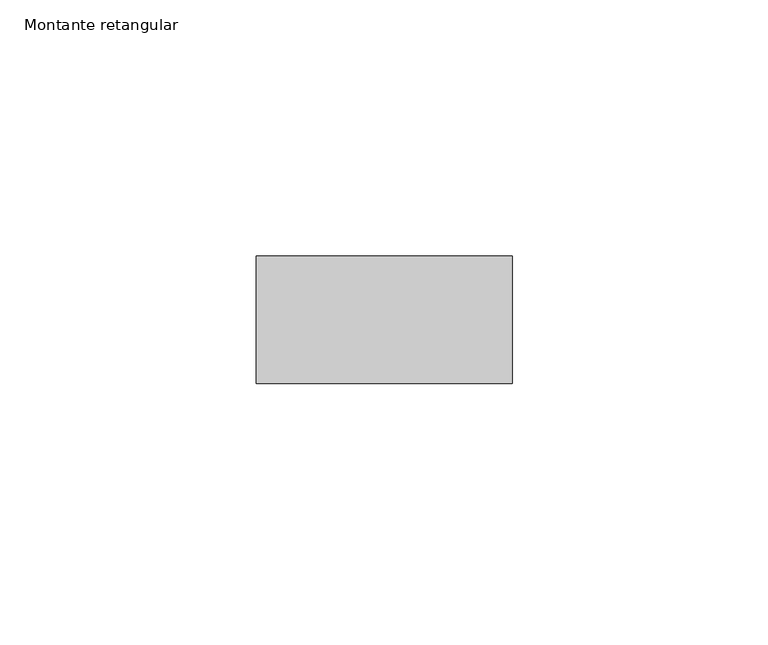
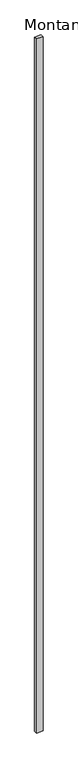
"""IFC4 building model written with IfcOpenShell, lengths in millimetres: member geometry, Montante retangular : ripa."""

from ifc_helpers import new_model, si_unit, frame, origin, place, context, project, spatial, polyline, outline, extrude, source, transform, mapped, element, save


def montante_retangular_ed2668eb(model_context):
    return source(origin(), model_context, "Body", "SweptSolid", [
        extrude(outline(polyline([(50.0, 12.5), (50.0, -12.5), (0.0, -12.5), (0.0, 12.5), (50.0, 12.5)])), frame((0.0, 0.0, -5607.4999998), z_axis=(0.0, 0.0, 1.0), x_axis=(1.0, 0.0, 0.0)), (0.0, 0.0, 1.0), 5607.4999998),
    ])


if __name__ == "__main__":
    model = new_model("IFC4")
    model_context = context("Model", 3, world=origin())
    ifc_project = project(units=[si_unit("LENGTHUNIT", "METRE", prefix="MILLI")], contexts=[model_context])
    site = spatial("IfcSite", under=ifc_project)
    building = spatial("IfcBuilding", under=site)
    placement = place(None, origin())
    montante_retangular_shape = montante_retangular_ed2668eb(model_context)
    element("IfcMember", 1, ObjectType="Montante retangular : ripa", at=placement, inside=building, context=model_context, shape_type="MappedRepresentation", body=[
        mapped(montante_retangular_shape, transform((0.0, 0.0, 0.0), x_axis=(1.0, 0.0, 0.0), y_axis=(0.0, 1.0, 0.0), z_axis=(0.0, 0.0, 1.0))),
    ])
    save(model, "model.ifc")
